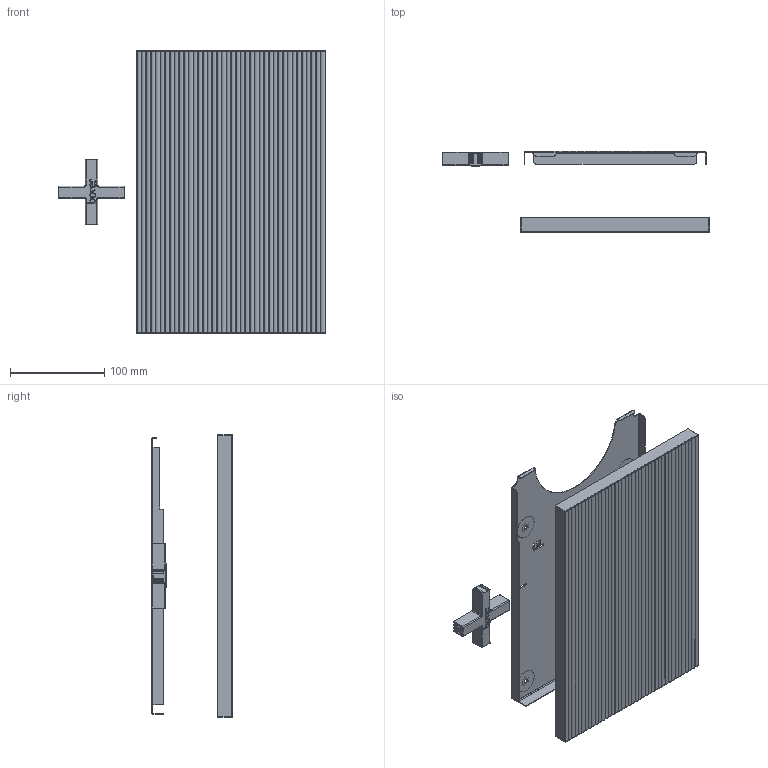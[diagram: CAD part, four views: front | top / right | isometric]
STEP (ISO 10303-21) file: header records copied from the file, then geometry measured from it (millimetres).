
FILE_DESCRIPTION (( 'STEP AP203' ), '1' );
FILE_NAME ('AC126004XXXU.STEP', '2025-01-28T09:29:22', ( '' ), ( '' ), 'SwSTEP 2.0', 'SolidWorks 2023', '' );
FILE_SCHEMA (( 'CONFIG_CONTROL_DESIGN' ));
Length unit declared in the file: millimetre
Products named in the file (8): SUB126-023-CN; 126-025; 126-026; AC126004XXXU; 126-040; 998-006; 126-033; SUB126-013-CNU
Assembly tree (14 placements, depth 3):
  AC126004XXXU
    SUB126-013-CNU
      126-040
      126-025  x4
      126-026
    SUB126-023-CN
      126-033
      998-006  x5
Bounding box: 282.91 x 86.24 x 300 mm (x, y, z)
Volume: 227205 mm3; surface area: 310889.1 mm2
Topology: 12 solids, 12 shells, 1125 faces, 2894 edges, 1835 vertices
Faces by surface type: cylinder 472, plane 300, torus 228, bspline 111, cone 10, sphere 4
Entity records: 42567 total; most frequent: CARTESIAN_POINT 16542, ORIENTED_EDGE 5492, DIRECTION 5118, EDGE_CURVE 2746, AXIS2_PLACEMENT_3D 1941, VERTEX_POINT 1739, LINE 1236, VECTOR 1236
